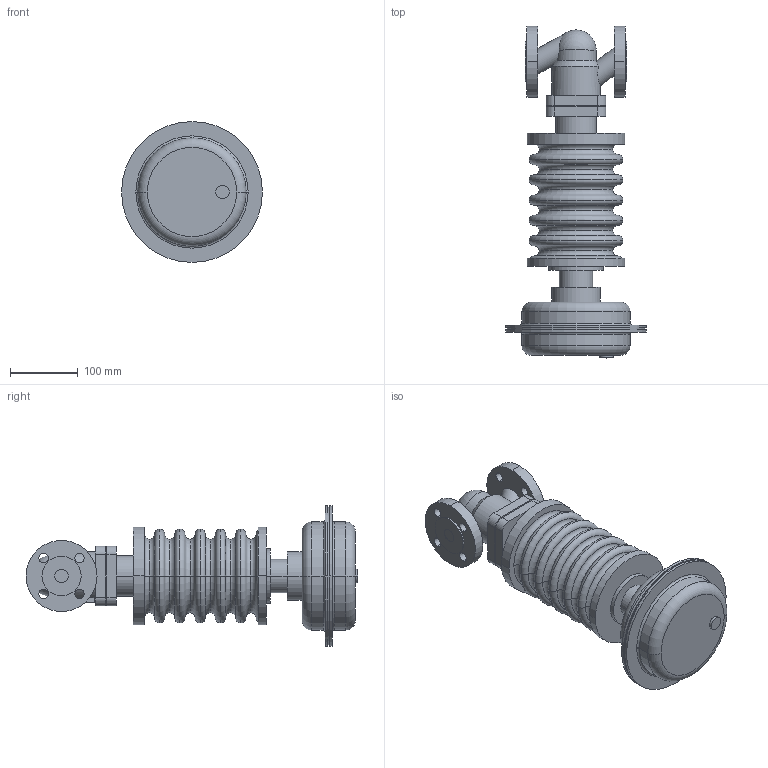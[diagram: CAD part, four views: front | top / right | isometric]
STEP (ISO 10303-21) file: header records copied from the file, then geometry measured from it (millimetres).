
FILE_DESCRIPTION(('OneSpaceDesigner STEP Export'),'2;1');
FILE_NAME('c000000549.stp','2006-08-30T 8:59:24',(''),(''),'OneSpace Designer STEP processor for AP203 (Solid Model)','OneSpace Designer 13.20A 18-Aug-2005 (C) CoCreate Software GmbH','');
FILE_SCHEMA(('CONFIG_CONTROL_DESIGN'));
Length unit declared in the file: millimetre
Products named in the file (1): 2
Bounding box: 208 x 490.5 x 208 mm (x, y, z)
Volume: 5243030 mm3; surface area: 365468.9 mm2
Topology: 1 solids, 1 shells, 176 faces, 393 edges, 242 vertices
Faces by surface type: cylinder 70, torus 54, plane 48, cone 2, sphere 2
Entity records: 5532 total; most frequent: CARTESIAN_POINT 1944, ORIENTED_EDGE 782, DIRECTION 666, EDGE_CURVE 391, AXIS2_PLACEMENT_3D 269, VERTEX_POINT 242, EDGE_LOOP 217, FACE_OUTER_BOUND 176
